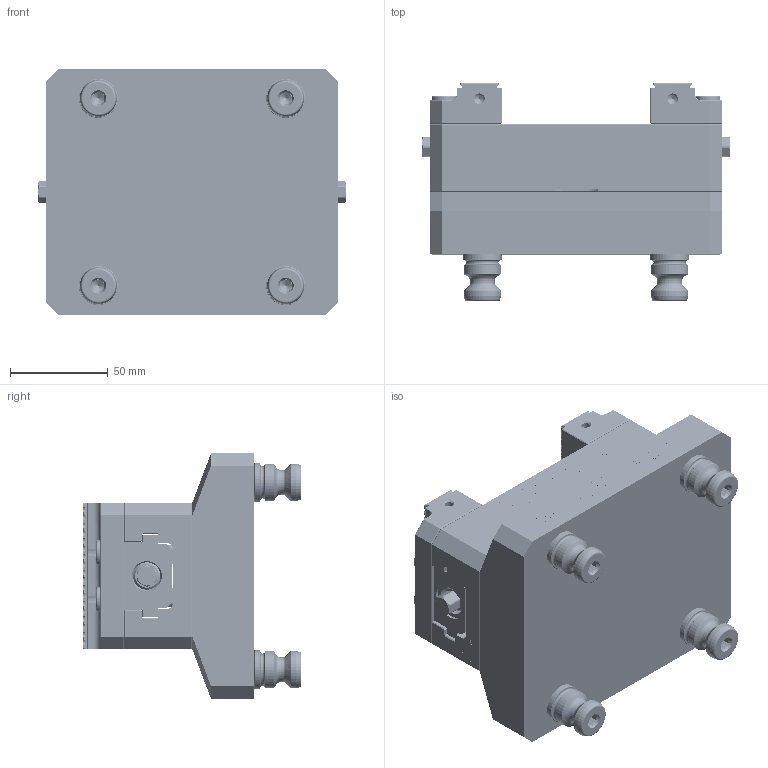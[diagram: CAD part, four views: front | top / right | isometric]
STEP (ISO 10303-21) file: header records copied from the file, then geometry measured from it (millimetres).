
FILE_DESCRIPTION (( 'STEP AP214' ), '1' );
FILE_NAME ('R96-V75150X.STEP', '2019-07-17T18:40:43', ( '' ), ( '' ), 'SwSTEP 2.0', 'SolidWorks 2018', '' );
FILE_SCHEMA (( 'AUTOMOTIVE_DESIGN' ));
Length unit declared in the file: millimetre
Products named in the file (19): R96-V75150; R96-V75150X; PS20F; 39874.CPSS_91390A162; PS20F-1_HARD TURN; V75150X; TIM-34_TIM-34; M5x10.DP_HW.M5X10.DP; 76232_HK.76232; M4C; 76048_HK.76048; SB3V_SB3V; V75100-6_V75100-6; V75100X-5_V75100X-5; V75150X-4; V75100X-3_V75100X-3; V75100X-2R_V75100X-2R; V75100X-2L_V75100X-2L; V75150X-1_V75150X
Assembly tree (34 placements, depth 3):
  R96-V75150X
    R96-V75150
    V75150X
      V75150X-1_V75150X
      V75100X-2L_V75100X-2L
      V75100X-2R_V75100X-2R
      V75100X-3_V75100X-3
      V75150X-4
      V75100X-5_V75100X-5  x2
      V75100-6_V75100-6  x2
      SB3V_SB3V  x2
      76048_HK.76048
      M4C
      76232_HK.76232  x8
      M5x10.DP_HW.M5X10.DP  x2
      TIM-34_TIM-34  x3
    PS20F  x4
      PS20F-1_HARD TURN
      39874.CPSS_91390A162
Bounding box: 158 x 111.88 x 125.73 mm (x, y, z)
Volume: 968374.8 mm3; surface area: 190974.8 mm2
Topology: 35 solids, 35 shells, 6158 faces, 15699 edges, 10115 vertices
Faces by surface type: plane 3302, cylinder 1133, bspline 1009, cone 590, torus 116, sphere 8
Entity records: 184294 total; most frequent: CARTESIAN_POINT 73486, ORIENTED_EDGE 22440, DIRECTION 16793, EDGE_CURVE 11220, VECTOR 7497, LINE 7497, VERTEX_POINT 7324, EDGE_LOOP 4886
